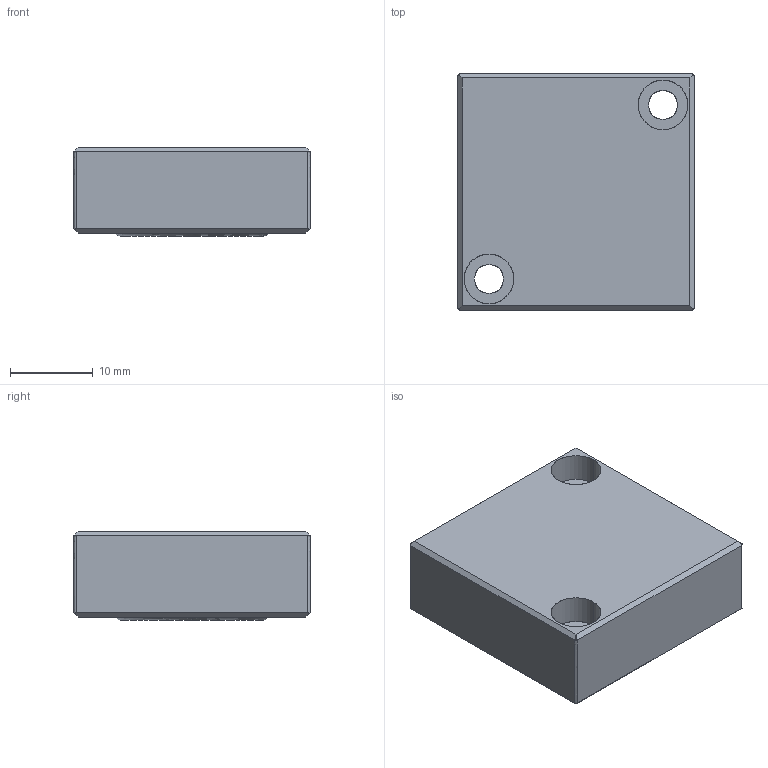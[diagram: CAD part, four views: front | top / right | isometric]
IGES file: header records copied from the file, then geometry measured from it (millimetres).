
Start section: SolidWorks IGES file using analytic representation for surfaces
Global section: file name: C:\Documents and Settings\Administrator\桌面\ZGNUFR03CB.IGS,1; native system: 5HSolidWorks 2012; preprocessor: SolidWorks 2012; author: Administrator; date: 140703.113325; units: millimetre
Bounding box: 28.5 x 28.5 x 10.7 mm (x, y, z)
Surface area: 3478 mm2 (no closed solid volume)
Topology: 0 solids, 0 shells, 38 faces, 668 edges, 760 vertices
Faces by surface type: bspline 22, revolution 16
